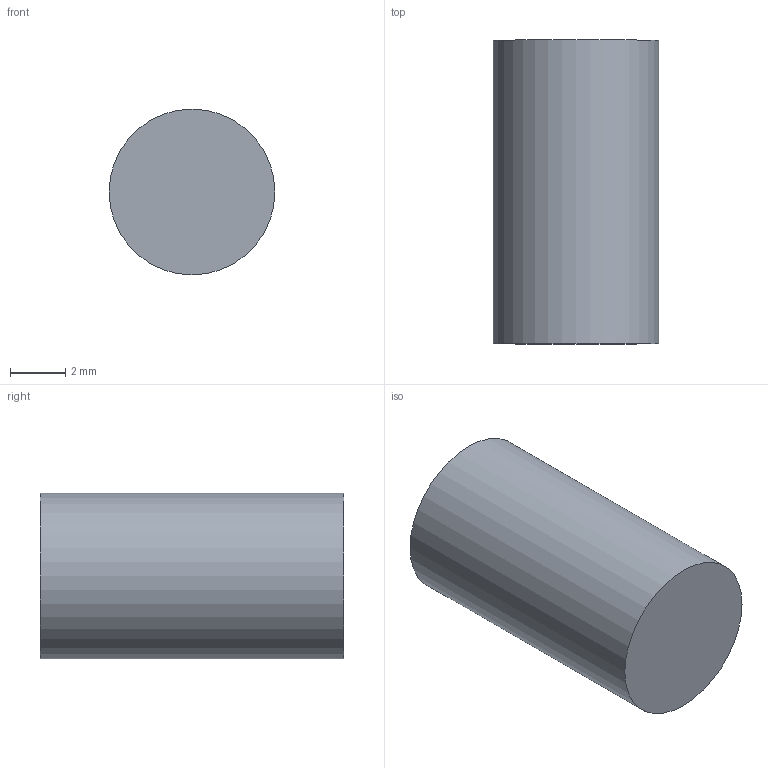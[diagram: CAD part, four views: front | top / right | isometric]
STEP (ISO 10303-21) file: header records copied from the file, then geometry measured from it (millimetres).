
FILE_DESCRIPTION(('Open CASCADE Model'),'2;1');
FILE_NAME('Open CASCADE Shape Model','2026-10-15T19:48:37',('Author'),( 'Open CASCADE'),'Open CASCADE STEP processor 7.9','Open CASCADE 7.9' ,'Unknown');
FILE_SCHEMA(('AUTOMOTIVE_DESIGN { 1 0 10303 214 1 1 1 1 }'));
Length unit declared in the file: millimetre
Products named in the file (1): Open CASCADE STEP translator 7.9 9
Bounding box: 6 x 11 x 6 mm (x, y, z)
Volume: 311 mm3; surface area: 263.9 mm2
Topology: 1 solids, 1 shells, 3 faces, 3 edges, 2 vertices
Faces by surface type: plane 2, cylinder 1
Full cylindrical faces by diameter (mm): 6 x1
Entity records: 108 total; most frequent: DIRECTION 19, CARTESIAN_POINT 15, AXIS2_PLACEMENT_3D 6, ORIENTED_EDGE 6, PCURVE 6, DEFINITIONAL_REPRESENTATION 6, LINE 5, VECTOR 5
